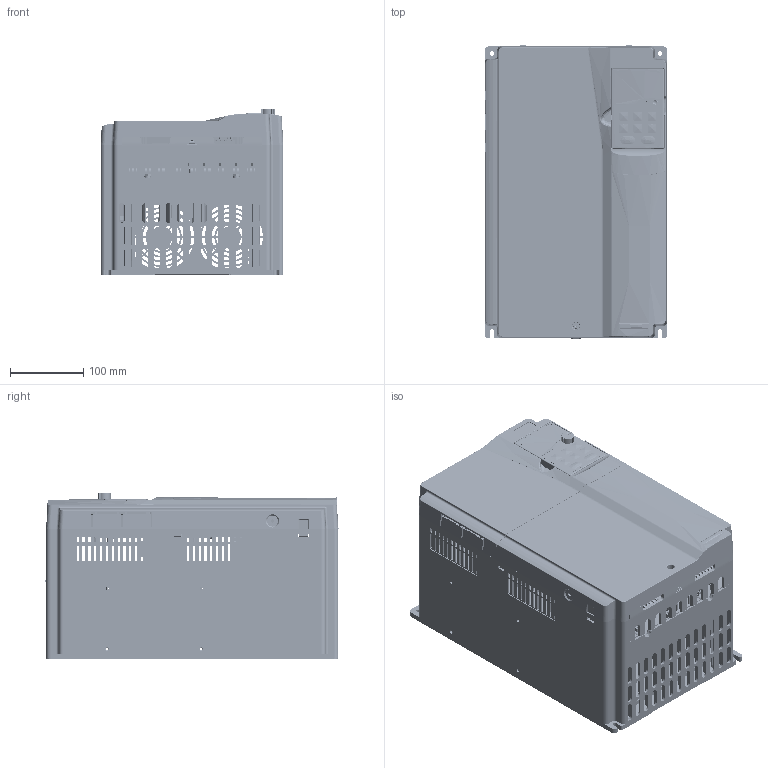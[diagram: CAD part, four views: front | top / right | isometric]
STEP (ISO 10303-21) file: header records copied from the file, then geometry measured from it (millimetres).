
FILE_DESCRIPTION((''),'2;1');
FILE_NAME('GD300-01A-037G-4_ASM','2024-09-11T15:59:27',('Administrator'),(''),'CREO PARAMETRIC BY PTC INC, 2019080','CREO PARAMETRIC BY PTC INC, 2019080','');
FILE_SCHEMA(('CONFIG_CONTROL_DESIGN'));
Products named in the file (43): 80740133; 80740187; 80740135; 80740134; 80310368; 0_BOTTOM_PLATE_ASM; 17003-01917-C; E-IDC34-OTM1; E-JK6-1414-11A; E-JK6-1315-10; E-TB09-22MM-T; 17003-01917-C_ASM; 17003-01917_ASM; FAN-CONN-1; FAN-CONN-2; FAN-CONN_ASM; 3-55-03-001; 88170657; 80740167; 80740168; INVT8_034_0058_; INVT8_034_0059_; JP-PCB_; DIANWEIQI_; INVT8_034_0060_; 86410001; INVT8_034_0064_; SHUMAGUAN_; 001_ASM; 78441763; 17003-06089-3D_B1; E-MJ0204-100TH; E-DIN0205-5_08MM-22_1MM-RM; E-DIN0107-5_08MM-RMD-A; E-DIN0208-5_08MM-22_1MM-RM; E-IDC34-ORM1; E-HEAD0105-4_2MM-TF-A; 17003-06089_ASM; GB845_ST4D2X13_ZC; GB9074_13_M5X12_ZC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
Assembly tree (55 placements, depth 4):
  GD300-01A-037G-4_ASM
    80740133
    80740187
    80740135
    80740134
    0_BOTTOM_PLATE_ASM
      80310368
    17003-01917_ASM
      17003-01917-C_ASM
        17003-01917-C
        E-IDC34-OTM1
        E-JK6-1414-11A  x2
        E-JK6-1315-10
        E-TB09-22MM-T
    FAN-CONN_ASM  x2
      FAN-CONN-1
      FAN-CONN-2
    3-55-03-001  x2
    88170657
    80740167
    80740168
    001_ASM
      INVT8_034_0058_
      INVT8_034_0059_
      JP-PCB_
      DIANWEIQI_
      INVT8_034_0060_
      86410001
      INVT8_034_0064_
      SHUMAGUAN_
    78441763
    17003-06089_ASM
      17003-06089-3D_B1
      E-MJ0204-100TH
      E-DIN0205-5_08MM-22_1MM-RM
      E-DIN0107-5_08MM-RMD-A
      E-DIN0208-5_08MM-22_1MM-RM
      E-IDC34-ORM1
      E-HEAD0105-4_2MM-TF-A
    GB845_ST4D2X13_ZC  x10
    GB9074_13_M5X12_ZC  x2
    GB9074_8_M4X12_ZC
    77340010
Bounding box: 250 x 401.49 x 227.3 mm (x, y, z)
Volume: 2269996.7 mm3; surface area: 1982029 mm2
Topology: 52 solids, 96 shells, 14863 faces, 40612 edges, 26350 vertices
Faces by surface type: plane 10323, cylinder 3322, cone 570, torus 250, bspline 239, extrusion 117, sphere 42
Entity records: 473218 total; most frequent: CARTESIAN_POINT 108363, ORIENTED_EDGE 77984, DIRECTION 71594, EDGE_CURVE 39008, VECTOR 29462, LINE 29345, VERTEX_POINT 25326, AXIS2_PLACEMENT_3D 21066
